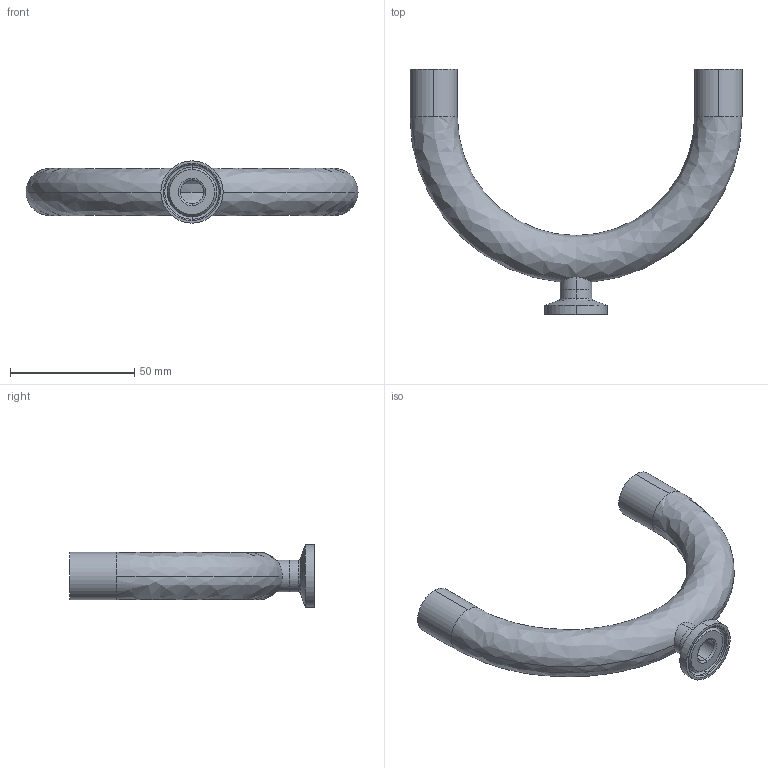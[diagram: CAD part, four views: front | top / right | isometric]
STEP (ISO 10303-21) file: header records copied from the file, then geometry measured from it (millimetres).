
FILE_DESCRIPTION (( 'STEP AP214' ), '1' );
FILE_NAME ('TE2UBWWC6L.75x.5-...STEP', '2016-05-25T04:54:37', ( 'eran' ), ( '' ), 'SwSTEP 2.0', 'SolidWorks 2016', '' );
FILE_SCHEMA (( 'AUTOMOTIVE_DESIGN' ));
Length unit declared in the file: millimetre
Products named in the file (1): TE2UBWWC6L.75x.5-..
Bounding box: 133.35 x 98.4 x 24.99 mm (x, y, z)
Volume: 21611.1 mm3; surface area: 25859.7 mm2
Topology: 2 solids, 2 shells, 42 faces, 100 edges, 62 vertices
Faces by surface type: cylinder 20, bspline 12, plane 6, cone 4
Entity records: 1551 total; most frequent: CARTESIAN_POINT 541, DIRECTION 214, ORIENTED_EDGE 200, EDGE_CURVE 100, AXIS2_PLACEMENT_3D 95, CIRCLE 64, VERTEX_POINT 62, EDGE_LOOP 48
